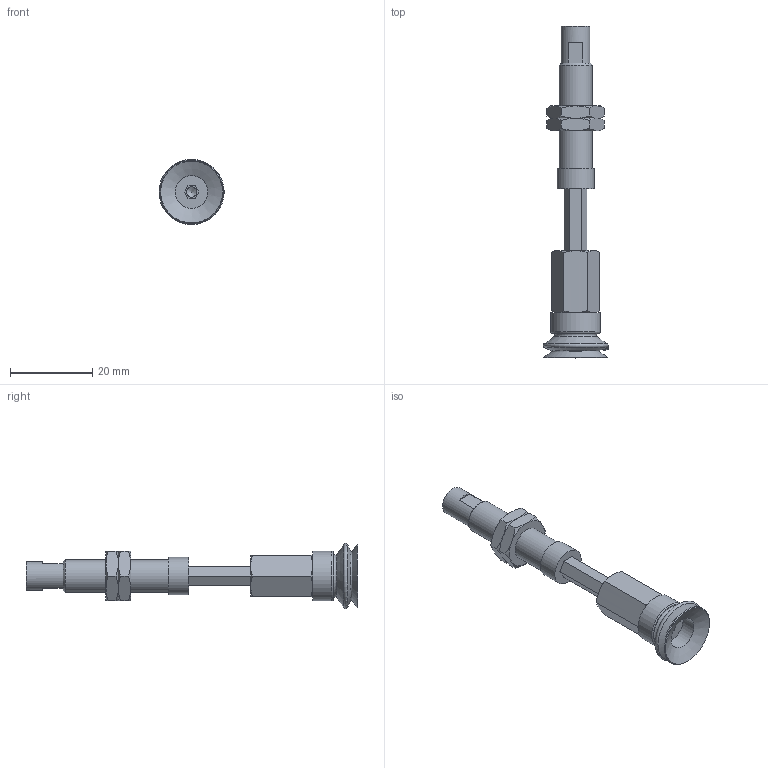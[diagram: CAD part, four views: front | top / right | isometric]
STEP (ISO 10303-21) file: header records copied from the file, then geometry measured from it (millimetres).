
FILE_DESCRIPTION(('STEP AP203'),'1');
FILE_NAME('.stp','2025-08-27T06:52:24',(' '),(' '),'Spatial InterOp 3D',' ',' ');
FILE_SCHEMA(('CONFIG_CONTROL_DESIGN'));
Length unit declared in the file: millimetre
Products named in the file (7): BNABPJTH-15-15-※; ADAPTER; NAPCTH-10-15-MBODY; Adapter-15-NAPJ; NAPJH-15-15-NUT; NAPJTH-15-15-FBODY; BPJG-15-※
Assembly tree (7 placements, depth 2):
  BNABPJTH-15-15-※
    ADAPTER
    NAPCTH-10-15-MBODY
    Adapter-15-NAPJ
    NAPJH-15-15-NUT  x2
    NAPJTH-15-15-FBODY
    BPJG-15-※
Bounding box: 15.99 x 80.5 x 15.78 mm (x, y, z)
Volume: 4863.3 mm3; surface area: 5336.3 mm2
Topology: 7 solids, 7 shells, 147 faces, 320 edges, 191 vertices
Faces by surface type: plane 62, cone 53, cylinder 13, torus 9, bspline 6, sphere 4
Full cylindrical faces by diameter (mm): 2.5 x1, 4.134 x2, 4.6 x1, 5 x1, 7 x1, 7.188 x2, 7.9 x1, 8 x2, 9 x1, 12 x1
Entity records: 3942 total; most frequent: CARTESIAN_POINT 1122, DIRECTION 514, ORIENTED_EDGE 458, EDGE_CURVE 229, AXIS2_PLACEMENT_3D 215, EDGE_LOOP 169, VERTEX_POINT 155, FACE_OUTER_BOUND 143
